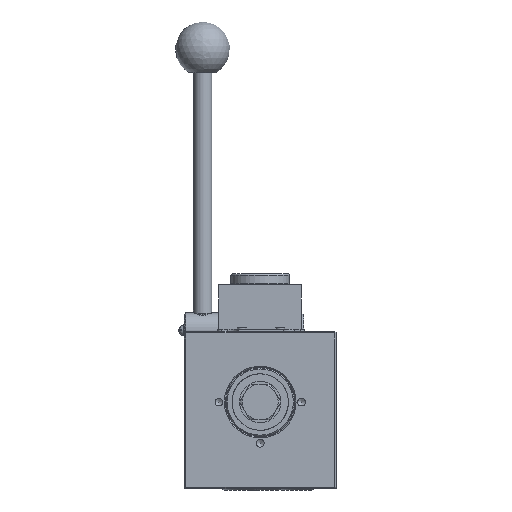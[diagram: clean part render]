
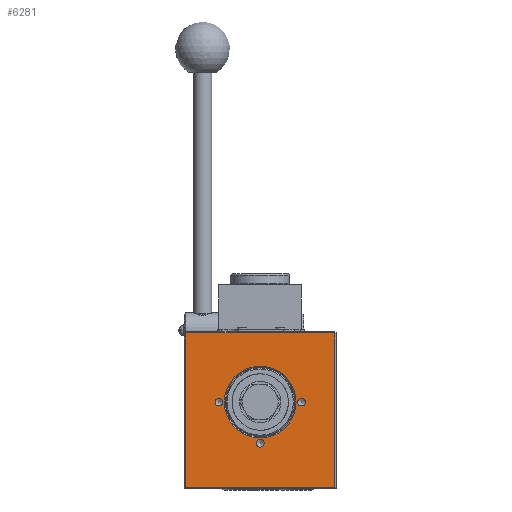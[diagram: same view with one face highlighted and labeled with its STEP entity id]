
A CAD part, left-side view. The second image highlights one B-rep face of the part: STEP entity #6281.
In plain terms, the highlighted planar face has unit normal (-1, 0, 0).
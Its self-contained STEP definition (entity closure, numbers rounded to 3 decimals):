
#4056=LINE('',#45084,#5208);
#4057=LINE('',#45087,#5209);
#4058=LINE('',#45089,#5210);
#4059=LINE('',#45091,#5211);
#5208=VECTOR('',#19362,1.);
#5209=VECTOR('',#19363,1.);
#5210=VECTOR('',#19364,1.);
#5211=VECTOR('',#19365,1.);
#6281=ADVANCED_FACE('',(#7650,#7651,#7652,#7653,#7654),#7006,.T.);
#7006=PLANE('',#17258);
#7650=FACE_BOUND('',#8291,.T.);
#7651=FACE_BOUND('',#8292,.T.);
#7652=FACE_BOUND('',#8293,.T.);
#7653=FACE_BOUND('',#8294,.T.);
#7654=FACE_BOUND('',#8295,.T.);
#8291=EDGE_LOOP('',(#10286));
#8292=EDGE_LOOP('',(#10287));
#8293=EDGE_LOOP('',(#10288));
#8294=EDGE_LOOP('',(#10289,#10290,#10291,#10292));
#8295=EDGE_LOOP('',(#10293));
#10286=ORIENTED_EDGE('',*,*,#15117,.T.);
#10287=ORIENTED_EDGE('',*,*,#15118,.T.);
#10288=ORIENTED_EDGE('',*,*,#15119,.T.);
#10289=ORIENTED_EDGE('',*,*,#15120,.T.);
#10290=ORIENTED_EDGE('',*,*,#15121,.T.);
#10291=ORIENTED_EDGE('',*,*,#15122,.T.);
#10292=ORIENTED_EDGE('',*,*,#15123,.T.);
#10293=ORIENTED_EDGE('',*,*,#15124,.F.);
#13587=VERTEX_POINT('',#45079);
#13588=VERTEX_POINT('',#45081);
#13589=VERTEX_POINT('',#45083);
#13590=VERTEX_POINT('',#45085);
#13591=VERTEX_POINT('',#45086);
#13592=VERTEX_POINT('',#45088);
#13593=VERTEX_POINT('',#45090);
#13594=VERTEX_POINT('',#45093);
#15117=EDGE_CURVE('',#13587,#13587,#16560,.T.);
#15118=EDGE_CURVE('',#13588,#13588,#16561,.T.);
#15119=EDGE_CURVE('',#13589,#13589,#16562,.T.);
#15120=EDGE_CURVE('',#13590,#13591,#4056,.T.);
#15121=EDGE_CURVE('',#13591,#13592,#4057,.T.);
#15122=EDGE_CURVE('',#13592,#13593,#4058,.T.);
#15123=EDGE_CURVE('',#13593,#13590,#4059,.T.);
#15124=EDGE_CURVE('',#13594,#13594,#16563,.T.);
#16560=CIRCLE('',#17254,1.8);
#16561=CIRCLE('',#17255,1.8);
#16562=CIRCLE('',#17256,1.8);
#16563=CIRCLE('',#17257,16.5);
#17254=AXIS2_PLACEMENT_3D('',#45078,#19356,#19357);
#17255=AXIS2_PLACEMENT_3D('',#45080,#19358,#19359);
#17256=AXIS2_PLACEMENT_3D('',#45082,#19360,#19361);
#17257=AXIS2_PLACEMENT_3D('',#45092,#19366,#19367);
#17258=AXIS2_PLACEMENT_3D('',#45094,#19368,#19369);
#19356=DIRECTION('',(1.,0.,0.));
#19357=DIRECTION('',(0.,0.,-1.));
#19358=DIRECTION('',(1.,0.,0.));
#19359=DIRECTION('',(0.,0.,-1.));
#19360=DIRECTION('',(1.,0.,0.));
#19361=DIRECTION('',(0.,0.,-1.));
#19362=DIRECTION('',(0.,0.,1.));
#19363=DIRECTION('',(0.,1.,0.));
#19364=DIRECTION('',(0.,0.,-1.));
#19365=DIRECTION('',(0.,-1.,0.));
#19366=DIRECTION('',(-1.,0.,0.));
#19367=DIRECTION('',(0.,0.,1.));
#19368=DIRECTION('',(-1.,0.,0.));
#19369=DIRECTION('',(0.,0.,-1.));
#45078=CARTESIAN_POINT('',(-2.2,54.,-32.5));
#45079=CARTESIAN_POINT('',(-2.2,54.,-34.3));
#45080=CARTESIAN_POINT('',(-2.2,35.,-51.5));
#45081=CARTESIAN_POINT('',(-2.2,35.,-53.3));
#45082=CARTESIAN_POINT('',(-2.2,16.,-32.5));
#45083=CARTESIAN_POINT('',(-2.2,16.,-34.3));
#45084=CARTESIAN_POINT('',(-2.2,0.7,-72.5));
#45085=CARTESIAN_POINT('',(-2.2,0.7,-71.8));
#45086=CARTESIAN_POINT('',(-2.2,0.7,-0.7));
#45087=CARTESIAN_POINT('',(-2.2,70.,-0.7));
#45088=CARTESIAN_POINT('',(-2.2,69.3,-0.7));
#45089=CARTESIAN_POINT('',(-2.2,69.3,-72.5));
#45090=CARTESIAN_POINT('',(-2.2,69.3,-71.8));
#45091=CARTESIAN_POINT('',(-2.2,0.,-71.8));
#45092=CARTESIAN_POINT('',(-2.2,35.,-32.5));
#45093=CARTESIAN_POINT('',(-2.2,35.,-16.));
#45094=CARTESIAN_POINT('',(-2.2,70.,-72.5));
